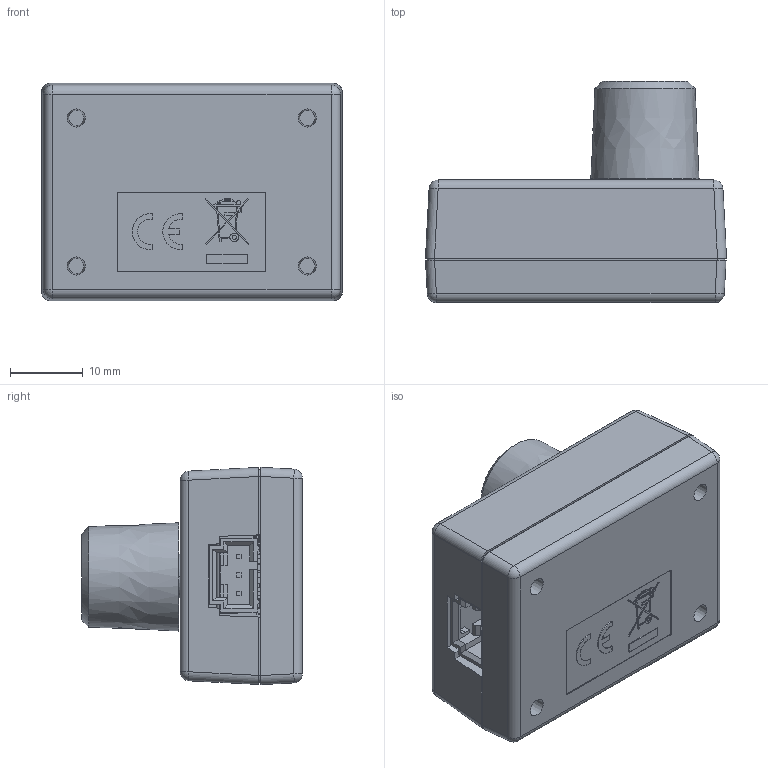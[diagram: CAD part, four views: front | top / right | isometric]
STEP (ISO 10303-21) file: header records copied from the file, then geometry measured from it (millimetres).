
FILE_DESCRIPTION(/* description */ ('Alibre Inc.'),/* implementation_level */ '2;1');
FILE_NAME(/* name */ 'export0',/* time_stamp */ '2018-08-13T14:51:13-06:00',/* author */ (''),/* organization */ (''),/* preprocessor_version */ 'ST-DEVELOPER v17',/* originating_system */ 'Alibre',/* authorisation */ '');
FILE_SCHEMA (('CONFIG_CONTROL_DESIGN'));
Length unit declared in the file: centimetre
Products named in the file (45): ID_1; ID_2; ID_3; ID_4; ID_5; ID_6; ID_7; ID_8; ID_9; ID_10; ID_11; ID_12; ID_13; ID_14; ID_15; ID_16; ID_17; ID_18; ID_19
Bounding box: 41.36 x 30.34 x 29.84 mm (x, y, z)
Volume: 12646.9 mm3; surface area: 14534.5 mm2
Topology: 42 solids, 42 shells, 1913 faces, 5203 edges, 3435 vertices
Faces by surface type: plane 1333, bspline 297, cylinder 252, cone 23, sphere 8
Full cylindrical faces by diameter (mm): 0.6 x1, 0.965 x8, 3.124 x4, 3.175 x4, 6.198 x1, 7.62 x1
Entity records: 50319 total; most frequent: CARTESIAN_POINT 11656, ORIENTED_EDGE 7728, DIRECTION 5279, EDGE_CURVE 3864, VECTOR 2945, LINE 2945, VERTEX_POINT 2555, AXIS2_PLACEMENT_3D 1642
